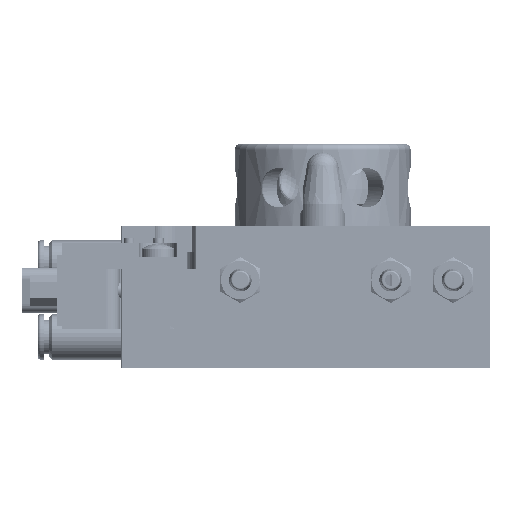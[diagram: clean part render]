
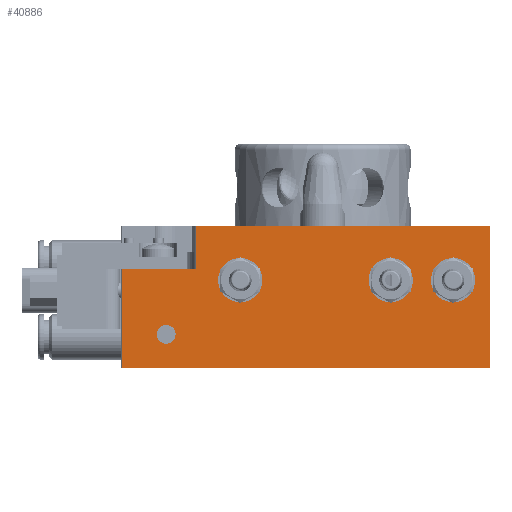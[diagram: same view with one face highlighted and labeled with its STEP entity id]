
A CAD part, left-side view. The second image highlights one B-rep face of the part: STEP entity #40886.
In plain terms, the highlighted planar face has unit normal (-1, 0, 0).
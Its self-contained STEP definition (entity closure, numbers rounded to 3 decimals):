
#1088 = CIRCLE ( 'NONE', #19559, 2.1 ) ;
#2051 = VECTOR ( 'NONE', #74552, 1000. ) ;
#2060 = CARTESIAN_POINT ( 'NONE',  ( -46., -9.9, -24. ) ) ;
#3306 = CARTESIAN_POINT ( 'NONE',  ( -46., -29.5, -14.5 ) ) ;
#3326 = CARTESIAN_POINT ( 'NONE',  ( -46., 35.5, -39.5 ) ) ;
#4024 = CARTESIAN_POINT ( 'NONE',  ( -46., 14.5, -24. ) ) ;
#5496 = DIRECTION ( 'NONE',  ( 0., 0., -1. ) ) ;
#5683 = CIRCLE ( 'NONE', #112961, 1.65 ) ;
#8996 = CARTESIAN_POINT ( 'NONE',  ( -46., 35.3, -39.5 ) ) ;
#10042 = EDGE_CURVE ( 'NONE', #17032, #35877, #1088, .T. ) ;
#10601 = DIRECTION ( 'NONE',  ( 0., 1., 0. ) ) ;
#13516 = EDGE_LOOP ( 'NONE', ( #127375, #64648 ) ) ;
#13698 = VERTEX_POINT ( 'NONE', #26626 ) ;
#13889 = DIRECTION ( 'NONE',  ( 0., 0., 1. ) ) ;
#14058 = DIRECTION ( 'NONE',  ( 1., 0., 0. ) ) ;
#14602 = DIRECTION ( 'NONE',  ( 0., 1., 0. ) ) ;
#14777 = CIRCLE ( 'NONE', #49228, 2.1 ) ;
#15697 = CARTESIAN_POINT ( 'NONE',  ( -46., 35.5, -14.5 ) ) ;
#16942 = VERTEX_POINT ( 'NONE', #85283 ) ;
#17032 = VERTEX_POINT ( 'NONE', #2060 ) ;
#19559 = AXIS2_PLACEMENT_3D ( 'NONE', #118888, #55931, #129390 ) ;
#20534 = EDGE_CURVE ( 'NONE', #129502, #69039, #5683, .T. ) ;
#21952 = FACE_BOUND ( 'NONE', #13516, .T. ) ;
#22377 = ORIENTED_EDGE ( 'NONE', *, *, #123767, .T. ) ;
#23054 = VERTEX_POINT ( 'NONE', #88537 ) ;
#25246 = FACE_OUTER_BOUND ( 'NONE', #43897, .T. ) ;
#26406 = AXIS2_PLACEMENT_3D ( 'NONE', #119874, #56949, #130376 ) ;
#26626 = CARTESIAN_POINT ( 'NONE',  ( -46., 22.3, -14.5 ) ) ;
#27446 = CARTESIAN_POINT ( 'NONE',  ( -46., 25.9, -33.55 ) ) ;
#29914 = DIRECTION ( 'NONE',  ( 1., 0., 0. ) ) ;
#30575 = CARTESIAN_POINT ( 'NONE',  ( -46., 27.55, -33.55 ) ) ;
#31965 = CARTESIAN_POINT ( 'NONE',  ( -46., 35.3, -39.5 ) ) ;
#32970 = DIRECTION ( 'NONE',  ( 0., 0., -1. ) ) ;
#34120 = DIRECTION ( 'NONE',  ( 1., 0., 0. ) ) ;
#35877 = VERTEX_POINT ( 'NONE', #55930 ) ;
#36347 = CARTESIAN_POINT ( 'NONE',  ( -46., 23., -22. ) ) ;
#40886 = ADVANCED_FACE ( 'NONE', ( #130615, #21952, #25246, #102822, #74929 ), #118970, .T. ) ;
#40959 = EDGE_CURVE ( 'NONE', #13698, #116593, #89691, .T. ) ;
#41251 = DIRECTION ( 'NONE',  ( 0., 1., 0. ) ) ;
#43495 = CARTESIAN_POINT ( 'NONE',  ( -46., 22.3, -22. ) ) ;
#43897 = EDGE_LOOP ( 'NONE', ( #112409, #120201, #70918, #22377, #110711, #118381 ) ) ;
#46250 = EDGE_CURVE ( 'NONE', #91474, #129624, #115022, .T. ) ;
#46338 = ORIENTED_EDGE ( 'NONE', *, *, #89489, .T. ) ;
#47543 = CARTESIAN_POINT ( 'NONE',  ( -46., 22.3, -39.5 ) ) ;
#49056 = LINE ( 'NONE', #36347, #129686 ) ;
#49228 = AXIS2_PLACEMENT_3D ( 'NONE', #77443, #14058, #88022 ) ;
#54820 = EDGE_LOOP ( 'NONE', ( #54876, #80129 ) ) ;
#54876 = ORIENTED_EDGE ( 'NONE', *, *, #10042, .T. ) ;
#55930 = CARTESIAN_POINT ( 'NONE',  ( -46., -14.1, -24. ) ) ;
#55931 = DIRECTION ( 'NONE',  ( 1., 0., 0. ) ) ;
#56734 = CIRCLE ( 'NONE', #135979, 2.1 ) ;
#56949 = DIRECTION ( 'NONE',  ( 1., 0., 0. ) ) ;
#58304 = LINE ( 'NONE', #31965, #2051 ) ;
#64448 = CARTESIAN_POINT ( 'NONE',  ( -46., 26., -39.5 ) ) ;
#64473 = CARTESIAN_POINT ( 'NONE',  ( -46., -29.5, -39.5 ) ) ;
#64648 = ORIENTED_EDGE ( 'NONE', *, *, #82014, .T. ) ;
#64900 = EDGE_LOOP ( 'NONE', ( #131893, #46338 ) ) ;
#65281 = VECTOR ( 'NONE', #5496, 1000. ) ;
#67229 = CARTESIAN_POINT ( 'NONE',  ( -46., 16.6, -24. ) ) ;
#67676 = VERTEX_POINT ( 'NONE', #43495 ) ;
#69039 = VERTEX_POINT ( 'NONE', #27446 ) ;
#70918 = ORIENTED_EDGE ( 'NONE', *, *, #71970, .T. ) ;
#71970 = EDGE_CURVE ( 'NONE', #67676, #91795, #49056, .T. ) ;
#73944 = DIRECTION ( 'NONE',  ( 1., 0., 0. ) ) ;
#74552 = DIRECTION ( 'NONE',  ( 0., 0., -1. ) ) ;
#74929 = FACE_BOUND ( 'NONE', #64900, .T. ) ;
#77277 = DIRECTION ( 'NONE',  ( -1., 0., 0. ) ) ;
#77443 = CARTESIAN_POINT ( 'NONE',  ( -46., -23., -24. ) ) ;
#77997 = DIRECTION ( 'NONE',  ( 1., 0., 0. ) ) ;
#79087 = DIRECTION ( 'NONE',  ( 0., -1., 0. ) ) ;
#79596 = EDGE_LOOP ( 'NONE', ( #134038, #120208 ) ) ;
#79737 = AXIS2_PLACEMENT_3D ( 'NONE', #30575, #104431, #41251 ) ;
#80129 = ORIENTED_EDGE ( 'NONE', *, *, #111677, .T. ) ;
#80218 = CARTESIAN_POINT ( 'NONE',  ( -46., 29.2, -33.55 ) ) ;
#82014 = EDGE_CURVE ( 'NONE', #130104, #16942, #56734, .T. ) ;
#85283 = CARTESIAN_POINT ( 'NONE',  ( -46., -20.9, -24. ) ) ;
#87197 = VECTOR ( 'NONE', #127769, 1000. ) ;
#88022 = DIRECTION ( 'NONE',  ( 0., 1., 0. ) ) ;
#88537 = CARTESIAN_POINT ( 'NONE',  ( -46., 12.4, -24. ) ) ;
#89061 = DIRECTION ( 'NONE',  ( 0., 1., 0. ) ) ;
#89489 = EDGE_CURVE ( 'NONE', #69039, #129502, #119653, .T. ) ;
#89691 = LINE ( 'NONE', #15697, #117546 ) ;
#91277 = EDGE_CURVE ( 'NONE', #23054, #129894, #92262, .T. ) ;
#91474 = VERTEX_POINT ( 'NONE', #133695 ) ;
#91795 = VERTEX_POINT ( 'NONE', #112110 ) ;
#92191 = AXIS2_PLACEMENT_3D ( 'NONE', #4024, #77997, #14602 ) ;
#92262 = CIRCLE ( 'NONE', #92191, 2.1 ) ;
#93224 = CARTESIAN_POINT ( 'NONE',  ( -46., -23., -24. ) ) ;
#93257 = LINE ( 'NONE', #47543, #65281 ) ;
#97416 = CARTESIAN_POINT ( 'NONE',  ( -46., -12., -24. ) ) ;
#98408 = EDGE_CURVE ( 'NONE', #129894, #23054, #111615, .T. ) ;
#100209 = EDGE_CURVE ( 'NONE', #13698, #67676, #93257, .T. ) ;
#100283 = VECTOR ( 'NONE', #32970, 1000. ) ;
#101573 = AXIS2_PLACEMENT_3D ( 'NONE', #3326, #77277, #13889 ) ;
#102822 = FACE_BOUND ( 'NONE', #79596, .T. ) ;
#103537 = LINE ( 'NONE', #64473, #100283 ) ;
#103759 = DIRECTION ( 'NONE',  ( 0., 1., 0. ) ) ;
#103995 = AXIS2_PLACEMENT_3D ( 'NONE', #97416, #34120, #107905 ) ;
#104431 = DIRECTION ( 'NONE',  ( 1., 0., 0. ) ) ;
#105436 = EDGE_CURVE ( 'NONE', #116593, #91474, #103537, .T. ) ;
#107905 = DIRECTION ( 'NONE',  ( 0., 1., 0. ) ) ;
#110711 = ORIENTED_EDGE ( 'NONE', *, *, #46250, .F. ) ;
#111615 = CIRCLE ( 'NONE', #26406, 2.1 ) ;
#111677 = EDGE_CURVE ( 'NONE', #35877, #17032, #135395, .T. ) ;
#112110 = CARTESIAN_POINT ( 'NONE',  ( -46., 35.3, -22. ) ) ;
#112409 = ORIENTED_EDGE ( 'NONE', *, *, #40959, .F. ) ;
#112961 = AXIS2_PLACEMENT_3D ( 'NONE', #136648, #73944, #10601 ) ;
#115022 = LINE ( 'NONE', #64448, #87197 ) ;
#116593 = VERTEX_POINT ( 'NONE', #3306 ) ;
#117546 = VECTOR ( 'NONE', #79087, 1000. ) ;
#118381 = ORIENTED_EDGE ( 'NONE', *, *, #105436, .F. ) ;
#118888 = CARTESIAN_POINT ( 'NONE',  ( -46., -12., -24. ) ) ;
#118970 = PLANE ( 'NONE',  #101573 ) ;
#119653 = CIRCLE ( 'NONE', #79737, 1.65 ) ;
#119874 = CARTESIAN_POINT ( 'NONE',  ( -46., 14.5, -24. ) ) ;
#120201 = ORIENTED_EDGE ( 'NONE', *, *, #100209, .T. ) ;
#120208 = ORIENTED_EDGE ( 'NONE', *, *, #91277, .T. ) ;
#123767 = EDGE_CURVE ( 'NONE', #91795, #129624, #58304, .T. ) ;
#127375 = ORIENTED_EDGE ( 'NONE', *, *, #132567, .T. ) ;
#127769 = DIRECTION ( 'NONE',  ( 0., 1., 0. ) ) ;
#129390 = DIRECTION ( 'NONE',  ( 0., 1., 0. ) ) ;
#129502 = VERTEX_POINT ( 'NONE', #80218 ) ;
#129624 = VERTEX_POINT ( 'NONE', #8996 ) ;
#129686 = VECTOR ( 'NONE', #89061, 1000. ) ;
#129894 = VERTEX_POINT ( 'NONE', #67229 ) ;
#130104 = VERTEX_POINT ( 'NONE', #133140 ) ;
#130376 = DIRECTION ( 'NONE',  ( 0., 1., 0. ) ) ;
#130615 = FACE_BOUND ( 'NONE', #54820, .T. ) ;
#131893 = ORIENTED_EDGE ( 'NONE', *, *, #20534, .T. ) ;
#132567 = EDGE_CURVE ( 'NONE', #16942, #130104, #14777, .T. ) ;
#133140 = CARTESIAN_POINT ( 'NONE',  ( -46., -25.1, -24. ) ) ;
#133695 = CARTESIAN_POINT ( 'NONE',  ( -46., -29.5, -39.5 ) ) ;
#134038 = ORIENTED_EDGE ( 'NONE', *, *, #98408, .T. ) ;
#135395 = CIRCLE ( 'NONE', #103995, 2.1 ) ;
#135979 = AXIS2_PLACEMENT_3D ( 'NONE', #93224, #29914, #103759 ) ;
#136648 = CARTESIAN_POINT ( 'NONE',  ( -46., 27.55, -33.55 ) ) ;
